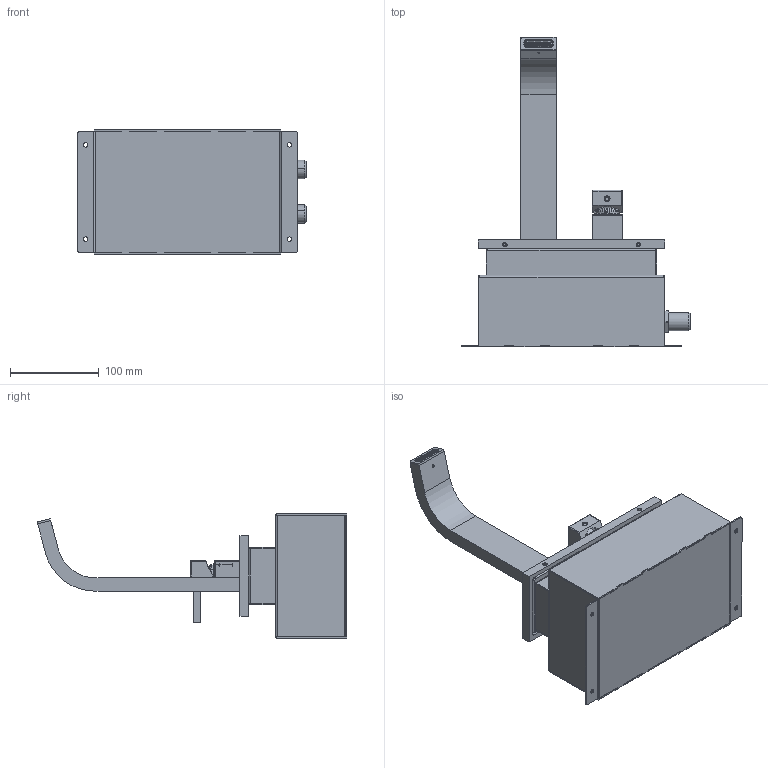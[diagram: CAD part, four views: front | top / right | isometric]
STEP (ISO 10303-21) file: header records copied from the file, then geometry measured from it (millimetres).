
FILE_DESCRIPTION (( 'STEP AP203' ), '1' );
FILE_NAME ('H4U10.STEP', '2016-10-21T09:04:12', ( '' ), ( '' ), 'SwSTEP 2.0', 'SolidWorks 2014', '' );
FILE_SCHEMA (( 'CONFIG_CONTROL_DESIGN' ));
Length unit declared in the file: millimetre
Products named in the file (41): EU0067_00; EU0109_0; EU1283_0; EU0103_0; EU0110_1; DADGAB5x83; AS468_00; EU0604_00; EU1282_0; OR765178ACS; EU0402_1; RONDFIB1; EU0135_0; GRANO M3 X 6; EU0759_0; EU1280_0; EU0104_1; TAPPHITO01; GRANO M5x6; EU0601_1; H4U10; VITETC5x40; EU0608_0; AS467_00; EU0134_0; EU0120_0; EU1281_1; EU0040_3; VITETC6X10; EU0133_0; EU004_00; EU0107_3; EU0119_2; 02328000002; DADO12H4; GRANCO M5X8 ACCIAIO; EU0604_0; EU0123_2; EU0620_00; CARTNUB001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
Assembly tree (57 placements, depth 4):
  H4U10
    EU0601_1
    EU0103_0
    EU0120_0
    EU0109_0
    EU0119_2
    CARTNUB001
    EU0402_1
    EU0604_0
    EU004_00
      GRANO M5x6  x2
      EU0104_1
      EU0110_1
      TAPPHITO01
    EU0620_00
      EU0608_0
      EU0135_0
      EU0134_0
      EU0133_0
      OR765178ACS
    VITETC4X16  x4
    VITETC6X10  x2
    GRANCO M5X8 ACCIAIO  x2
    EU0604_00
      EU0123_2
      EU0067_00
        EU0107_3
        02328000002
        EU0040_3  x2
      GRANO M3 X 6
    RONDFIB1
    EU0759_0
    AS468_00
      AS467_00
        EU1281_1
        EU1282_0
      EU1283_0
      VITETC5x40  x2
      RONDFIB1  x2
      DADGAB5x83  x6
      EU1280_0  x2
      DADO12H4  x2
Bounding box: 257 x 347.67 x 140 mm (x, y, z)
Volume: 465602.7 mm3; surface area: 484781.3 mm2
Topology: 54 solids, 54 shells, 3192 faces, 8426 edges, 5345 vertices
Faces by surface type: plane 1546, cylinder 1139, cone 239, torus 200, bspline 34, sphere 34
Entity records: 87274 total; most frequent: CARTESIAN_POINT 16669, DIRECTION 13869, ORIENTED_EDGE 13532, EDGE_CURVE 6766, AXIS2_PLACEMENT_3D 4926, VERTEX_POINT 4301, LINE 4017, VECTOR 4017
